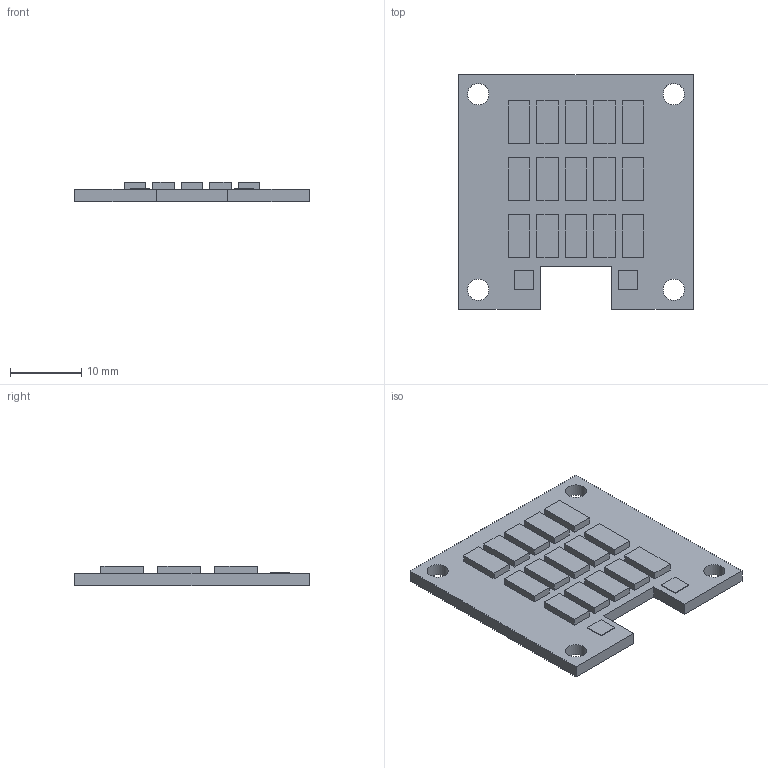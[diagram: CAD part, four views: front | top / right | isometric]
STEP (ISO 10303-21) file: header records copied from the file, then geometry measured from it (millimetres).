
FILE_DESCRIPTION(('ML15R1AL'),'2;1');
FILE_NAME('Z:\Mixdeal\Catalogo\Modelos 3D\STEP\ML15R1AL.stp','2015-06-26T15:29:34',('Nicolas Kretzig'),('MIXDEAL SA'),'Autodesk Inventor 2011','Autodesk Inventor 2011','');
FILE_SCHEMA(('AUTOMOTIVE_DESIGN { 1 0 10303 214 1 1 1 1 }'));
Length unit declared in the file: millimetre
Products named in the file (1): ML15R1AL
Bounding box: 33 x 33 x 2.75 mm (x, y, z)
Volume: 2022.7 mm3; surface area: 2591.6 mm2
Topology: 1 solids, 1 shells, 99 faces, 244 edges, 164 vertices
Faces by surface type: plane 95, cylinder 4
Full cylindrical faces by diameter (mm): 3 x4
Entity records: 2960 total; most frequent: CARTESIAN_POINT 496, ORIENTED_EDGE 472, DIRECTION 444, EDGE_CURVE 236, VECTOR 228, LINE 228, VERTEX_POINT 160, EDGE_LOOP 128
